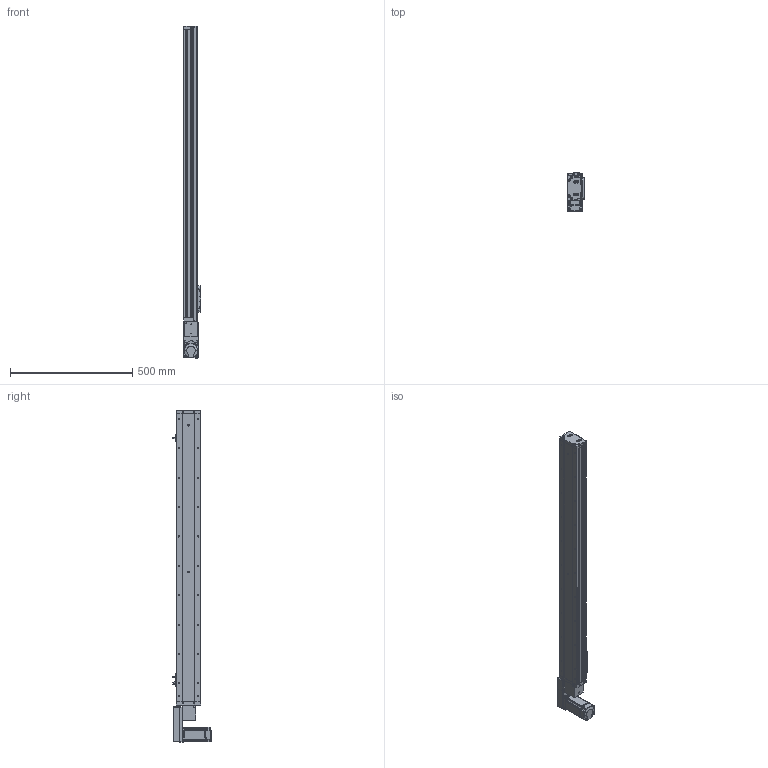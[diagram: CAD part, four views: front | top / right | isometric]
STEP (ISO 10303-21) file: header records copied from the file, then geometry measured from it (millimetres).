
FILE_DESCRIPTION (( 'STEP AP214' ), '1' );
FILE_NAME ('KSD100B-S1000-MLB-CR.STEP', '2019-09-06T08:00:44', ( '微软用户' ), ( '微软中国' ), 'SwSTEP 2.0', 'SolidWorks 2014', '' );
FILE_SCHEMA (( 'AUTOMOTIVE_DESIGN' ));
Length unit declared in the file: millimetre
Products named in the file (16): 100宽端板同步带全封闭; 100宽滚珠螺姆安装板全封闭皮带; 100宽滚珠螺姆安装板1防护罩; 100宽滚珠螺姆安装板1; 100遵裔啣揤啣; 100遵裔啣1000俴最; MHMD042G1CA_2_03; 100宽侧板1000行程同步带; 100宽底板全封闭1000行程同步带; KSD100B-S1000-MLB-CR; 感应片100宽全封闭; 100宽马达安装板连板上下折丝杆同步带; U倰嫖萇EEㄜSX672; 悵誘欶奻狟殏; 100宽马达安装板同步带左; 100遵鎮湛假蚾啣蜊
Assembly tree (19 placements, depth 2):
  KSD100B-S1000-MLB-CR
    100宽底板全封闭1000行程同步带
    100宽侧板1000行程同步带  x2
    100遵裔啣1000俴最
    100遵裔啣揤啣  x2
    100宽滚珠螺姆安装板1
    100宽滚珠螺姆安装板1防护罩
    100宽端板同步带全封闭
    100宽滚珠螺姆安装板全封闭皮带
    100遵鎮湛假蚾啣蜊
    100宽马达安装板同步带左
    U倰嫖萇EEㄜSX672  x3
    感应片100宽全封闭
    100宽马达安装板连板上下折丝杆同步带
    悵誘欶奻狟殏
    MHMD042G1CA_2_03
Bounding box: 70 x 156.2 x 1357 mm (x, y, z)
Volume: 2606126.5 mm3; surface area: 1141291.2 mm2
Topology: 18 solids, 19 shells, 1984 faces, 5550 edges, 3551 vertices
Faces by surface type: cylinder 905, plane 808, cone 251, bspline 20
Entity records: 70424 total; most frequent: CARTESIAN_POINT 10946, DIRECTION 9778, ORIENTED_EDGE 9052, EDGE_CURVE 4598, AXIS2_PLACEMENT_3D 3537, VERTEX_POINT 3049, LINE 2704, VECTOR 2704
